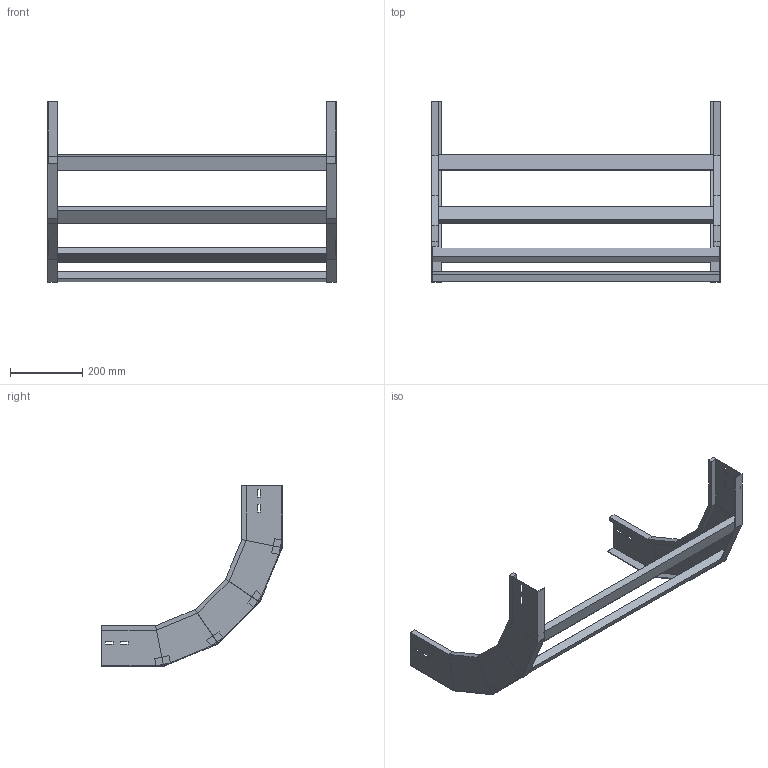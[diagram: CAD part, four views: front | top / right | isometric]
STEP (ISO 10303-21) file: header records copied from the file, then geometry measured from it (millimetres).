
FILE_DESCRIPTION (( 'STEP AP214' ), '1' );
FILE_NAME ('A2Z30B3J800XX.step', '2025-03-20T10:22:27', ( '' ), ( '' ), 'SwSTEP 2.0', 'SolidWorks 2023', '' );
FILE_SCHEMA (( 'AUTOMOTIVE_DESIGN' ));
Length unit declared in the file: millimetre
Products named in the file (3): LONGH.SALITA_90°_H112.5_R300; A2Z30B3J800XX; TRAVERSINO_800
Assembly tree (6 placements, depth 2):
  A2Z30B3J800XX
    LONGH.SALITA_90°_H112.5_R300  x2
    TRAVERSINO_800  x4
Bounding box: 800 x 501.33 x 501.33 mm (x, y, z)
Volume: 3250669.2 mm3; surface area: 859258.1 mm2
Topology: 6 solids, 6 shells, 140 faces, 320 edges, 192 vertices
Faces by surface type: plane 140
Entity records: 1872 total; most frequent: CARTESIAN_POINT 309, ORIENTED_EDGE 296, DIRECTION 294, LINE 148, EDGE_CURVE 148, VECTOR 148, VERTEX_POINT 88, AXIS2_PLACEMENT_3D 73
